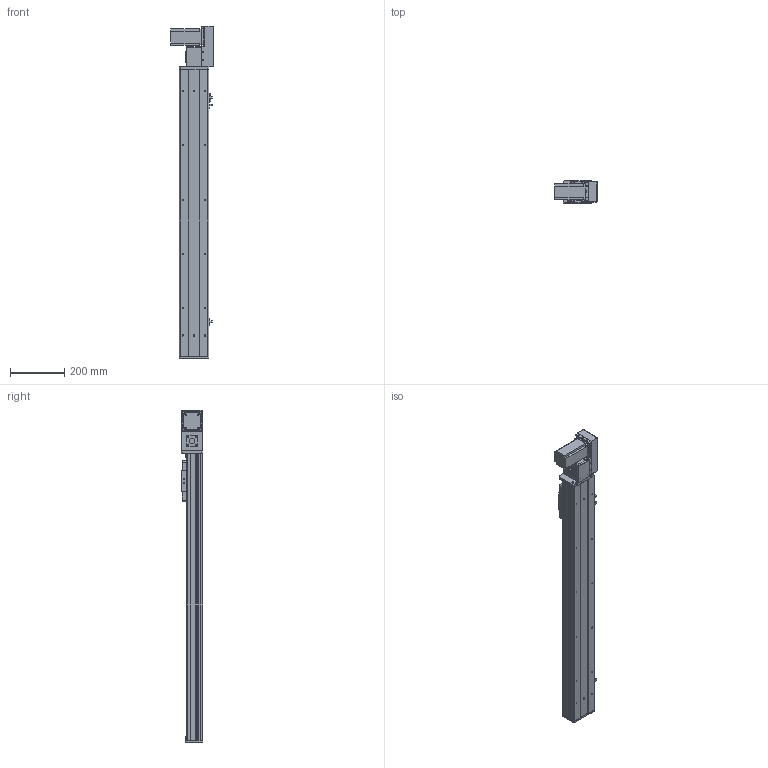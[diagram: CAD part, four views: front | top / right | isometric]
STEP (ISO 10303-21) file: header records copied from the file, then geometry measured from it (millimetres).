
FILE_DESCRIPTION (( 'STEP AP203' ), '1' );
FILE_NAME ('Y10CB-D90-S800-BR-P400W.STEP', '2020-02-16T01:43:42', ( '微软用户' ), ( '微软中国' ), 'SwSTEP 2.0', 'SolidWorks 2017', '' );
FILE_SCHEMA (( 'CONFIG_CONTROL_DESIGN' ));
Length unit declared in the file: millimetre
Products named in the file (18): Y10B--々湍喘謫眊--666; Y俋欶BR----; Y10CB-D90-S800-BR-P400W; 10CB-詩湍-; 0Cb-俋欶---; Y10CB- 掛极耜裔啣-毀---; Y10B-々湍喘謫眊楊擘啣--; Y10C---詩湍揤啣; Y10B-耜蚾蟀諉啣----; 10CB9-掛极; 0B-萇儂楊擘啣; 10CB-耜裔; san松下电机400不带刹车----; 0CB-雄赽釱---; Y135C-陔俋离換覜結え-; 0B-源倛裔啣; Y100-135俋离換覜ん--; 0B-埴倛裔啣
Assembly tree (21 placements, depth 2):
  Y10CB-D90-S800-BR-P400W
    0CB-雄赽釱---
    0Cb-俋欶---
    Y10B-々湍喘謫眊楊擘啣--
    Y10B-耜蚾蟀諉啣----
    0B-萇儂楊擘啣
    san松下电机400不带刹车----
    0B-源倛裔啣
    0B-埴倛裔啣
    Y俋欶BR----
    10CB-詩湍-
    Y10CB- 掛极耜裔啣-毀---  x2
    Y10C---詩湍揤啣  x2
    10CB9-掛极
    10CB-耜裔
    Y135C-陔俋离換覜結え-
    Y100-135俋离換覜ん--  x3
    Y10B--々湍喘謫眊--666
Bounding box: 157.5 x 80.5 x 1222.5 mm (x, y, z)
Volume: 2787726 mm3; surface area: 1236599.5 mm2
Topology: 21 solids, 21 shells, 978 faces, 2603 edges, 1706 vertices
Faces by surface type: cylinder 477, plane 477, cone 24
Entity records: 30404 total; most frequent: CARTESIAN_POINT 5321, DIRECTION 4926, ORIENTED_EDGE 4676, EDGE_CURVE 2338, AXIS2_PLACEMENT_3D 1761, VERTEX_POINT 1532, LINE 1404, VECTOR 1404
